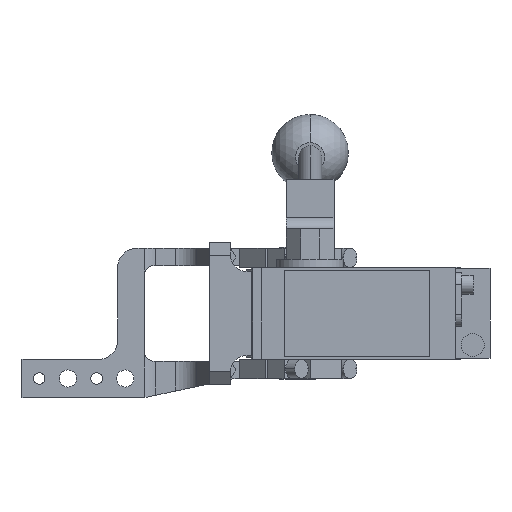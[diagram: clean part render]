
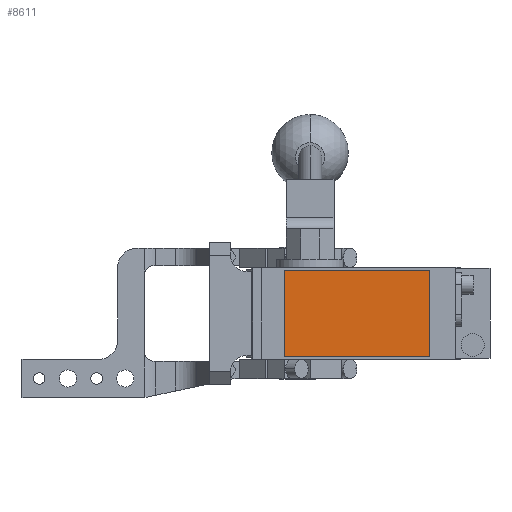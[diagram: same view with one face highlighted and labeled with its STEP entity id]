
A CAD part, front view. The second image highlights one B-rep face of the part: STEP entity #8611.
In plain terms, the highlighted planar face has unit normal (0, -1, 0).
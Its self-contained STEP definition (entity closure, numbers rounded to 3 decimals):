
#30 = DIRECTION ( 'NONE',  ( 0., -1., 0. ) ) ;
#370 = ORIENTED_EDGE ( 'NONE', *, *, #2092, .T. ) ;
#1264 = ORIENTED_EDGE ( 'NONE', *, *, #14092, .T. ) ;
#1433 = VECTOR ( 'NONE', #15109, 1000. ) ;
#1551 = CARTESIAN_POINT ( 'NONE',  ( 69., -280.5, 22.5 ) ) ;
#1817 = VECTOR ( 'NONE', #12996, 1000. ) ;
#2092 = EDGE_CURVE ( 'NONE', #8781, #11831, #3254, .T. ) ;
#2552 = DIRECTION ( 'NONE',  ( 0., 0., -1. ) ) ;
#2859 = AXIS2_PLACEMENT_3D ( 'NONE', #11260, #30, #2552 ) ;
#2980 = LINE ( 'NONE', #15018, #11030 ) ;
#3254 = LINE ( 'NONE', #8204, #9734 ) ;
#3883 = VERTEX_POINT ( 'NONE', #8654 ) ;
#4601 = CARTESIAN_POINT ( 'NONE',  ( 69., -280.5, 22.5 ) ) ;
#5175 = DIRECTION ( 'NONE',  ( -1., 0., 0. ) ) ;
#5266 = LINE ( 'NONE', #6321, #1433 ) ;
#5800 = VERTEX_POINT ( 'NONE', #1551 ) ;
#6321 = CARTESIAN_POINT ( 'NONE',  ( -7., -280.5, 22.5 ) ) ;
#6373 = FACE_OUTER_BOUND ( 'NONE', #11635, .T. ) ;
#8098 = LINE ( 'NONE', #4601, #1817 ) ;
#8204 = CARTESIAN_POINT ( 'NONE',  ( -7., -280.5, -22.5 ) ) ;
#8611 = ADVANCED_FACE ( 'NONE', ( #6373 ), #12327, .T. ) ;
#8654 = CARTESIAN_POINT ( 'NONE',  ( -7., -280.5, 22.5 ) ) ;
#8781 = VERTEX_POINT ( 'NONE', #12080 ) ;
#9599 = EDGE_CURVE ( 'NONE', #3883, #8781, #5266, .T. ) ;
#9734 = VECTOR ( 'NONE', #13106, 1000. ) ;
#11030 = VECTOR ( 'NONE', #5175, 1000. ) ;
#11260 = CARTESIAN_POINT ( 'NONE',  ( 0., -280.5, 0. ) ) ;
#11308 = CARTESIAN_POINT ( 'NONE',  ( 69., -280.5, -22.5 ) ) ;
#11635 = EDGE_LOOP ( 'NONE', ( #13631, #370, #15094, #1264 ) ) ;
#11831 = VERTEX_POINT ( 'NONE', #11308 ) ;
#12080 = CARTESIAN_POINT ( 'NONE',  ( -7., -280.5, -22.5 ) ) ;
#12327 = PLANE ( 'NONE',  #2859 ) ;
#12996 = DIRECTION ( 'NONE',  ( 0., 0., 1. ) ) ;
#13106 = DIRECTION ( 'NONE',  ( 1., 0., 0. ) ) ;
#13333 = EDGE_CURVE ( 'NONE', #11831, #5800, #8098, .T. ) ;
#13631 = ORIENTED_EDGE ( 'NONE', *, *, #9599, .T. ) ;
#14092 = EDGE_CURVE ( 'NONE', #5800, #3883, #2980, .T. ) ;
#15018 = CARTESIAN_POINT ( 'NONE',  ( -7., -280.5, 22.5 ) ) ;
#15094 = ORIENTED_EDGE ( 'NONE', *, *, #13333, .T. ) ;
#15109 = DIRECTION ( 'NONE',  ( 0., 0., -1. ) ) ;
